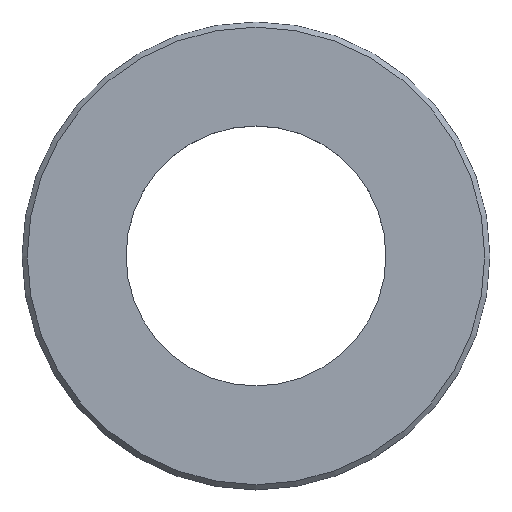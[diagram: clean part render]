
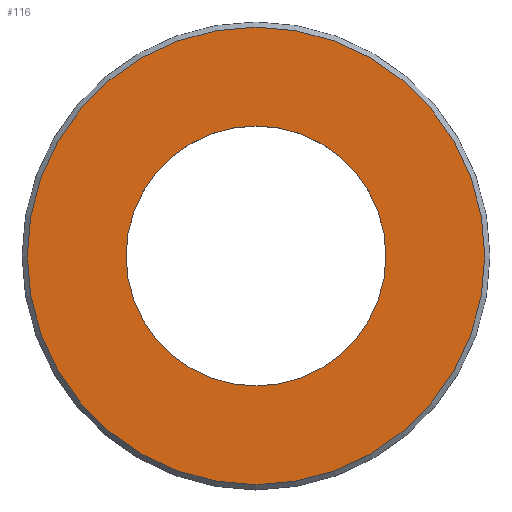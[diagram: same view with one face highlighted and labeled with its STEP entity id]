
A CAD part, top view. The second image highlights one B-rep face of the part: STEP entity #116.
In plain terms, the highlighted planar face has unit normal (0, 0, 1).
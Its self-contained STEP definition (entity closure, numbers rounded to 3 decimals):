
#39=AXIS2_PLACEMENT_3D('Circle Axis2P3D',#37,#38,$) ;
#74=AXIS2_PLACEMENT_3D('Circle Axis2P3D',#72,#73,$) ;
#92=AXIS2_PLACEMENT_3D('Plane Axis2P3D',#89,#90,#91) ;
#96=AXIS2_PLACEMENT_3D('Circle Axis2P3D',#94,#95,$) ;
#105=AXIS2_PLACEMENT_3D('Circle Axis2P3D',#103,#104,$) ;
#37=CARTESIAN_POINT('Axis2P3D Location',(0.,0.,5.)) ;
#41=CARTESIAN_POINT('Vertex',(-12.5,0.,5.)) ;
#43=CARTESIAN_POINT('Vertex',(12.5,0.,5.)) ;
#72=CARTESIAN_POINT('Axis2P3D Location',(0.,0.,5.)) ;
#89=CARTESIAN_POINT('Axis2P3D Location',(0.,0.,5.)) ;
#94=CARTESIAN_POINT('Axis2P3D Location',(0.,0.,5.)) ;
#98=CARTESIAN_POINT('Vertex',(22.,0.,5.)) ;
#100=CARTESIAN_POINT('Vertex',(-22.,0.,5.)) ;
#103=CARTESIAN_POINT('Axis2P3D Location',(0.,0.,5.)) ;
#38=DIRECTION('Axis2P3D Direction',(0.,0.,1.)) ;
#73=DIRECTION('Axis2P3D Direction',(0.,0.,1.)) ;
#90=DIRECTION('Axis2P3D Direction',(0.,0.,1.)) ;
#91=DIRECTION('Axis2P3D XDirection',(1.,0.,0.)) ;
#95=DIRECTION('Axis2P3D Direction',(0.,0.,1.)) ;
#104=DIRECTION('Axis2P3D Direction',(0.,0.,1.)) ;
#109=ORIENTED_EDGE('',*,*,#102,.T.) ;
#110=ORIENTED_EDGE('',*,*,#107,.T.) ;
#113=ORIENTED_EDGE('',*,*,#45,.F.) ;
#114=ORIENTED_EDGE('',*,*,#76,.F.) ;
#115=FACE_BOUND('',#112,.T.) ;
#116=ADVANCED_FACE('\X2\96F64EF651E04F554F53\X0\',(#111,#115),#93,.T.) ;
#40=CIRCLE('generated circle',#39,12.5) ;
#75=CIRCLE('generated circle',#74,12.5) ;
#97=CIRCLE('generated circle',#96,22.) ;
#106=CIRCLE('generated circle',#105,22.) ;
#45=EDGE_CURVE('',#42,#44,#40,.T.) ;
#76=EDGE_CURVE('',#44,#42,#75,.T.) ;
#102=EDGE_CURVE('',#99,#101,#97,.T.) ;
#107=EDGE_CURVE('',#101,#99,#106,.T.) ;
#108=EDGE_LOOP('',(#109,#110)) ;
#112=EDGE_LOOP('',(#113,#114)) ;
#111=FACE_OUTER_BOUND('',#108,.T.) ;
#93=PLANE('',#92) ;
#42=VERTEX_POINT('',#41) ;
#44=VERTEX_POINT('',#43) ;
#99=VERTEX_POINT('',#98) ;
#101=VERTEX_POINT('',#100) ;
